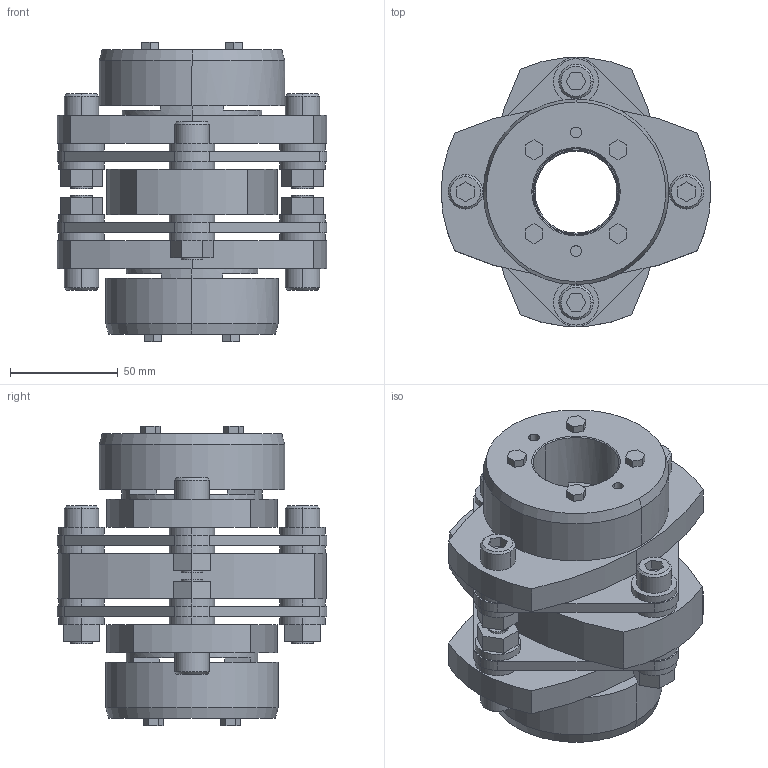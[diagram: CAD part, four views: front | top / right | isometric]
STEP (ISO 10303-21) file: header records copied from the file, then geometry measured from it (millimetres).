
FILE_DESCRIPTION((''),'2;1');
FILE_NAME('LCD-125T7-38×40.stp','2011-09-07T10:21:06',(''),(''),'AutoCAD STEP 2000i','AutoCAD 2000i',', , ');
FILE_SCHEMA(('CONFIG_CONTROL_DESIGN'));
Length unit declared in the file: millimetre
Products named in the file (9): LCD-125T7-38×40; 忣兜1; LC125T7-T040; LC125T7-T038-1; LC125T7-T038; LC125T7-T035; LC125T7-T032-1; LC125T7-T032; LCD125-ITA
Assembly tree (8 placements, depth 2):
  LCD-125T7-38×40
    忣兜1
    LC125T7-T040
    LC125T7-T038-1
    LC125T7-T038
    LC125T7-T035
    LC125T7-T032-1
    LC125T7-T032
    LCD125-ITA
Bounding box: 125 x 124.91 x 139 mm (x, y, z)
Volume: 663157.3 mm3; surface area: 138647.5 mm2
Topology: 1 solids, 1 shells, 334 faces, 818 edges, 538 vertices
Faces by surface type: plane 190, cylinder 120, cone 24
Entity records: 10127 total; most frequent: DIRECTION 1786, CARTESIAN_POINT 1699, ORIENTED_EDGE 1636, EDGE_CURVE 818, AXIS2_PLACEMENT_3D 625, VERTEX_POINT 538, VECTOR 536, LINE 536
